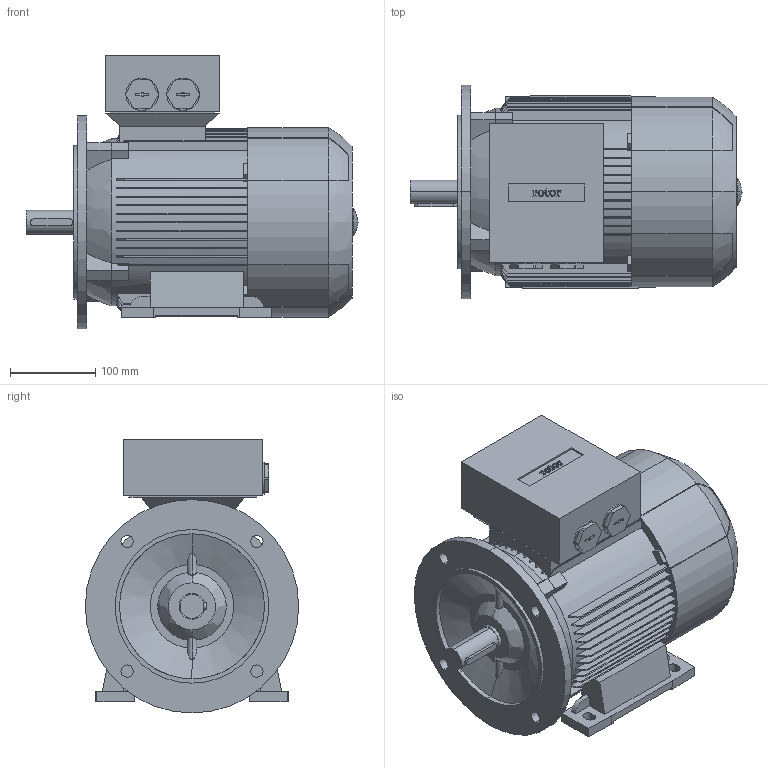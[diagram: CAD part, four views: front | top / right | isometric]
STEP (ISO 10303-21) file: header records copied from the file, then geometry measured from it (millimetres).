
FILE_DESCRIPTION (( 'STEP AP214' ), '1' );
FILE_NAME ('6RN112M06E22 IM2001.STEP', '2014-09-15T12:08:38', ( 'rbc_ict' ), ( 'REGAL' ), 'SwSTEP 2.0', 'SolidWorks 2012', '' );
FILE_SCHEMA (( 'AUTOMOTIVE_DESIGN' ));
Length unit declared in the file: millimetre
Products named in the file (1): 6RN112M06E22 IM2001
Bounding box: 389 x 250 x 321 mm (x, y, z)
Volume: 12976301 mm3; surface area: 599011.3 mm2
Topology: 1 solids, 1 shells, 659 faces, 1869 edges, 1234 vertices
Faces by surface type: plane 385, bspline 147, cylinder 121, cone 6
Entity records: 25838 total; most frequent: CARTESIAN_POINT 9484, ORIENTED_EDGE 3734, DIRECTION 2967, EDGE_CURVE 1867, VERTEX_POINT 1234, VECTOR 1093, LINE 1093, AXIS2_PLACEMENT_3D 937
